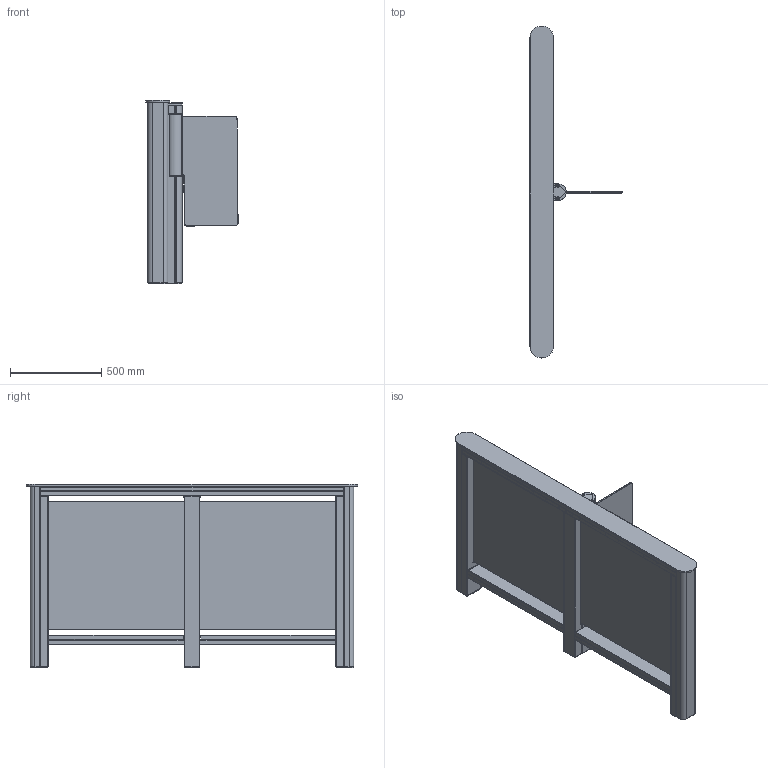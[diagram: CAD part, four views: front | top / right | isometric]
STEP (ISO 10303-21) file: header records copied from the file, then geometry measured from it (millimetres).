
FILE_DESCRIPTION(/* description */ ('Unknown'),/* implementation_level */ '2;1');
FILE_NAME(/* name */ 'ST-01_M_S',/* time_stamp */ '2021-12-23T11:20:38+03:00',/* author */ ('Unknown'),/* organization */ ('Unknown'),/* preprocessor_version */ 'ST-DEVELOPER v18.1',/* originating_system */ 'Solid Edge',/* authorisation */ 'Unknown');
FILE_SCHEMA (('CONFIG_CONTROL_DESIGN'));
Products named in the file (113): ST-01_M_S; ST-01.1.006.00 砎魤鍱_oa_0; ST-01.1.002.00 栺鍣罻_oa_1; ST-01.1.002.02 砑僔蠂縺; ST-01.1.005.08 扻豵鵨; ST-01.1.031.00 沓劌錪 瀔魤鍱趌oa_2; ST-01.1.036.00 昜闉趌oa_3; BG65x25+PLG52+mufta_oa_4; ST-01.045.00ﾑﾁ ﾊ濱oa_5; ST-01.046.00 ﾊ濱oa_6; ST-01.046.09 Êîæóõ-Ïî óìîë÷àíèþ; ST-01.047.00 扰鍙欙樥燲oa_7; ST-01.760.00 Ïëàòà ýëåêòðîïðèâîäà_oa_8; ST-01.920.00 Êàáåëü ñîåäèíåíèÿ CAN; ST-01.1.004.00捘 昜闉趌oa_9; ST-01.008.00 ﾊ濱oa_10; ST-01.008.05 Êîæóõ; ST-01.008.00 ﾊ濱oa_11; ST-01.900.00 Êàáåëü ñîåäèíåíèÿ  DC; Äæàìïåð MJ-0_13; 淟檍瀖睯貗; ST-01.1.010.00ﾑﾁ ﾊ濱oa_12; ST-01.740.00 Ïëàòà èíäèêàòîðíîé ñòîéêè_oa_13; ST-01.1.010.10 Ñòåêëî-Ïî óìîë÷àíèþ; ST-01.1.011.00 ﾊ濱oa_14; ST-01.1.011.05 署赅; ST-01.1.009.00捘 扻豵鵨_oa_15; ST-01.009.25 Êîæóõ; ST-01.1.009.07 扻豵鵨; ST-01.013.00 扻豂塺oa_16; ST-01.1.016.00 扻豂塺oa_17; ST-01.1.015.00 扻豂塺oa_18; ST-01.1.015.05 Êîðîá; Øïèëüêè ñáîðêà_oa_19; Øïèëüêè ñáîðêà_oa_20; Øïèëüêè ñáîðêà 2_oa_21; Øïèëüêè ñáîðêà 2_oa_22; Øïèëüêè ñáîðêà_oa_23; Øïèëüêè ñáîðêà_oa_24; Øïèëüêè ñáîðêà 2_oa_25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
Assembly tree (137 placements, depth 5):
  ST-01_M_S
    ST-01.1.006.00 砎魤鍱_oa_0
      ST-01.1.002.00 栺鍣罻_oa_1
        ST-01.1.002.02 砑僔蠂縺
      ST-01.1.005.08 扻豵鵨
      ST-01.1.031.00 沓劌錪 瀔魤鍱趌oa_2
        ST-01.1.036.00 昜闉趌oa_3
        BG65x25+PLG52+mufta_oa_4
      ST-01.045.00ﾑﾁ ﾊ濱oa_5
        ST-01.046.00 ﾊ濱oa_6
          ST-01.046.09 Êîæóõ-Ïî óìîë÷àíèþ
        ST-01.047.00 扰鍙欙樥燲oa_7
      ST-01.760.00 Ïëàòà ýëåêòðîïðèâîäà_oa_8
      ST-01.920.00 Êàáåëü ñîåäèíåíèÿ CAN
      ST-01.1.004.00捘 昜闉趌oa_9
      ST-01.008.00 ﾊ濱oa_10
        ST-01.008.05 Êîæóõ
      ST-01.008.00 ﾊ濱oa_11
        ST-01.008.05 Êîæóõ
      ST-01.900.00 Êàáåëü ñîåäèíåíèÿ  DC
      Äæàìïåð MJ-0_13
      淟檍瀖睯貗  x3
    ST-01.1.010.00ﾑﾁ ﾊ濱oa_12
      ST-01.740.00 Ïëàòà èíäèêàòîðíîé ñòîéêè_oa_13
      ST-01.1.010.10 Ñòåêëî-Ïî óìîë÷àíèþ
      ST-01.1.011.00 ﾊ濱oa_14
        ST-01.1.011.05 署赅
      ST-01.1.009.00捘 扻豵鵨_oa_15
        ST-01.009.25 Êîæóõ
        ST-01.1.009.07 扻豵鵨
    ST-01.013.00 扻豂塺oa_16
      ST-01.1.016.00 扻豂塺oa_17
        ST-01.1.015.00 扻豂塺oa_18
          ST-01.1.015.05 Êîðîá
          Øïèëüêè ñáîðêà_oa_19
          Øïèëüêè ñáîðêà_oa_20
          Øïèëüêè ñáîðêà 2_oa_21
          Øïèëüêè ñáîðêà 2_oa_22
          Øïèëüêè ñáîðêà_oa_23
          Øïèëüêè ñáîðêà_oa_24
          Øïèëüêè ñáîðêà 2_oa_25
          Øïèëüêè ñáîðêà 2_oa_26
          Øïèëüêà âèðò
        ST-01.016.05 Êîðîá--01
      ST-01.017.00 Ïëàñòèíà â ñáîðå_oa_27
      ST-01.706.00 Ïëàòà ïðèåìíèêîâ_oa_28
      ST-01.706.00 Ïëàòà ïðèåìíèêîâ_oa_29
      ST-01.716.00 Ïëàòà ïðèåìíèêîâ_oa_30
      ST-01.716.00 Ïëàòà ïðèåìíèêîâ_oa_31
      ST-01.050.15 Ïëàñòèíà (ñâåòîôèëüòð)-795  x2
      Ëåíòà ìîíòàíæíàÿ äâóñòîðîííÿÿ 9473PC VHB 19 ìì_âèðò
      ST-01.014.00 扻豂塺oa_32
      ST-01.910.00 忺摎錪 膰豂摳 CAN_睯貗  x4
      ST-01.910.00-01 忺摎錪 膰豂摳 CAN_睯貗
      ST-01.910.00-02 忺摎錪 膰豂摳 CAN_睯貗  x3
      ST-01.931.00 忺摎錪 襜贀槻鍣 鴈儰罻灕醂睯貗
      ST-01.932.00 Êàáåëü èíäèêàöèè ñòîéêè_âèðò
      ST-01.940.00 Êàáåëü èíäèêàöèè ïðîõîäà_âèðò
      淟檍瀖睯貗  x5
      ST-01.050.15 Ïëàñòèíà (ñâåòîôèëüòð)-1662
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Bounding box: 505.19 x 1820 x 1004.7 mm (x, y, z)
Volume: 17770253.8 mm3; surface area: 9211563.6 mm2
Topology: 39 solids, 39 shells, 2840 faces, 7413 edges, 4633 vertices
Faces by surface type: plane 2006, cylinder 651, bspline 137, cone 46
Full cylindrical faces by diameter (mm): 3.3 x46, 3.5 x8, 4 x4, 5 x104, 5.5 x6, 6 x4, 7 x17, 11 x15, 12 x13, 13.5 x2, 16 x4, 87 x1
Entity records: 74508 total; most frequent: CARTESIAN_POINT 17086, ORIENTED_EDGE 11340, DIRECTION 10924, EDGE_CURVE 5670, LINE 4354, VECTOR 4354, VERTEX_POINT 3662, AXIS2_PLACEMENT_3D 3285
